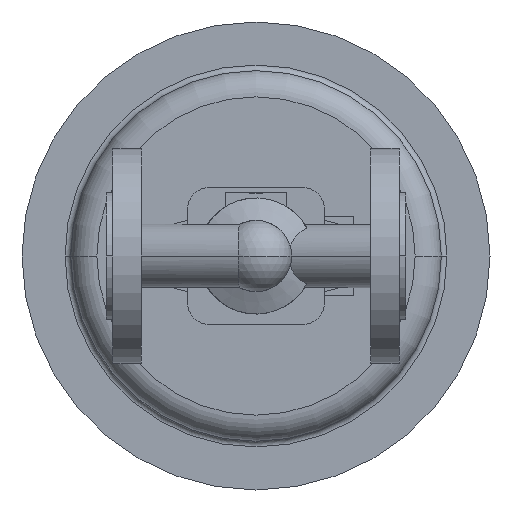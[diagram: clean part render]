
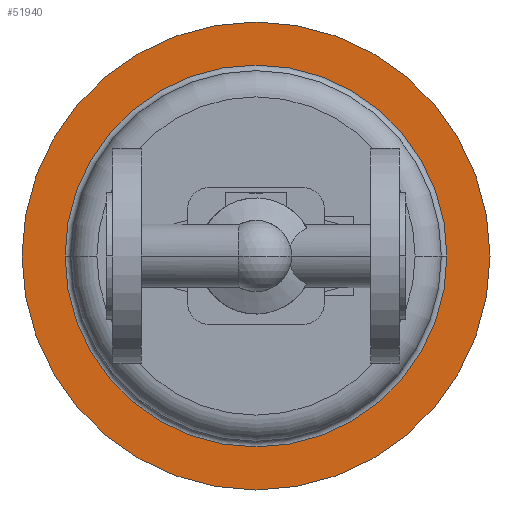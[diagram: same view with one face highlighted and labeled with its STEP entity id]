
A CAD part, front view. The second image highlights one B-rep face of the part: STEP entity #51940.
In plain terms, the highlighted planar face has unit normal (0, -1, 0).
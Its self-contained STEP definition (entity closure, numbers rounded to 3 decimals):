
#51400=CARTESIAN_POINT('',(182.,568.,0.));
#51410=VERTEX_POINT('',#51400);
#51440=CARTESIAN_POINT('',(80.,568.,0.));
#51450=DIRECTION('',(0.,1.,0.));
#51460=DIRECTION('',(1.,0.,0.));
#51470=AXIS2_PLACEMENT_3D('',#51440,#51450,#51460);
#51480=CIRCLE('',#51470,102.);
#51490=CARTESIAN_POINT('',(-22.,568.,0.));
#51500=VERTEX_POINT('',#51490);
#51510=EDGE_CURVE('',#51410,#51500,#51480,.T.);
#51650=CARTESIAN_POINT('',(193.5,568.,0.));
#51660=DIRECTION('',(0.,-1.,0.));
#51670=DIRECTION('',(-1.,0.,0.));
#51680=AXIS2_PLACEMENT_3D('',#51650,#51660,#51670);
#51690=PLANE('',#51680);
#51700=CARTESIAN_POINT('',(80.,568.,0.));
#51710=DIRECTION('',(0.,1.,0.));
#51720=DIRECTION('',(1.,0.,0.));
#51730=AXIS2_PLACEMENT_3D('',#51700,#51710,#51720);
#51740=CIRCLE('',#51730,125.);
#51750=CARTESIAN_POINT('',(-45.,568.,0.));
#51760=VERTEX_POINT('',#51750);
#51770=CARTESIAN_POINT('',(205.,568.,0.));
#51780=VERTEX_POINT('',#51770);
#51790=EDGE_CURVE('',#51760,#51780,#51740,.T.);
#51800=ORIENTED_EDGE('',*,*,#51790,.F.);
#51810=EDGE_CURVE('',#51780,#51760,#51740,.T.);
#51820=ORIENTED_EDGE('',*,*,#51810,.F.);
#51830=EDGE_LOOP('',(#51820,#51800));
#51840=FACE_OUTER_BOUND('',#51830,.T.);
#51850=ORIENTED_EDGE('',*,*,#51510,.T.);
#51860=CARTESIAN_POINT('',(80.,568.,102.));
#51870=VERTEX_POINT('',#51860);
#51880=EDGE_CURVE('',#51870,#51410,#51480,.T.);
#51890=ORIENTED_EDGE('',*,*,#51880,.T.);
#51900=EDGE_CURVE('',#51500,#51870,#51480,.T.);
#51910=ORIENTED_EDGE('',*,*,#51900,.T.);
#51920=EDGE_LOOP('',(#51910,#51890,#51850));
#51930=FACE_BOUND('',#51920,.T.);
#51940=ADVANCED_FACE('',(#51840,#51930),#51690,.T.);
